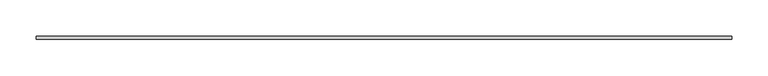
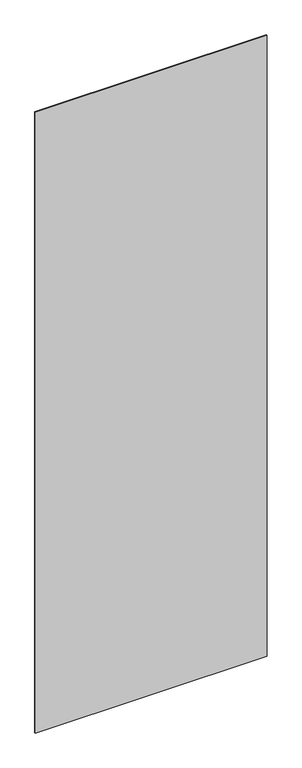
"""IFC4 building model written with IfcOpenShell, lengths in millimetres: plate geometry, Panel Flex Woodline : Panel Flex Woodline."""

from ifc_helpers import new_model, si_unit, origin, origin_with_axes, place, context, project, spatial, polyline, outline, extrude, source, transform, mapped, element, save


def plate_6305fb53(model_context):
    return source(origin(), model_context, "Body", "SweptSolid", [
        extrude(outline(polyline([(480.0, 19.5), (480.0, 15.5), (-480.0, 15.5), (-480.0, 19.5), (480.0, 19.5)])), origin_with_axes(), (0.0, 0.0, 1.0), 2716.0),
    ])


if __name__ == "__main__":
    model = new_model("IFC4")
    model_context = context("Model", 3, world=origin())
    ifc_project = project(units=[si_unit("LENGTHUNIT", "METRE", prefix="MILLI")], contexts=[model_context])
    site = spatial("IfcSite", under=ifc_project)
    building = spatial("IfcBuilding", under=site)
    placement = place(None, origin())
    plate_shape = plate_6305fb53(model_context)
    element("IfcPlate", 1, ObjectType="Panel Flex Woodline : Panel Flex Woodline", at=placement, inside=building, context=model_context, shape_type="MappedRepresentation", body=[
        mapped(plate_shape, transform((0.0, 0.0, 0.0), x_axis=(1.0, 0.0, 0.0), y_axis=(0.0, 1.0, 0.0), z_axis=(0.0, 0.0, 1.0))),
    ])
    save(model, "model.ifc")
